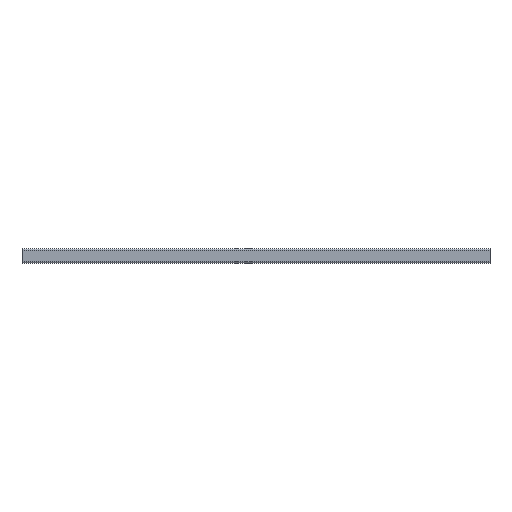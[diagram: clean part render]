
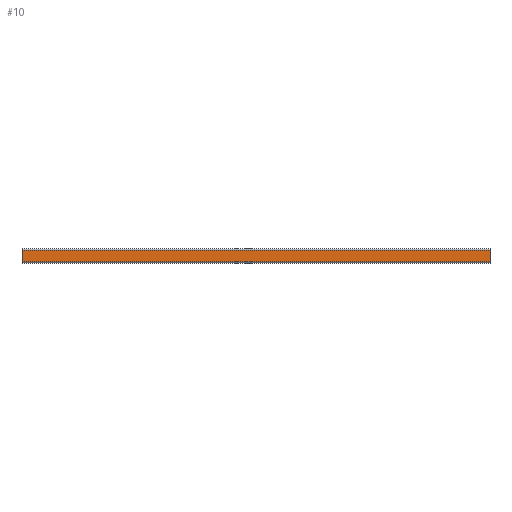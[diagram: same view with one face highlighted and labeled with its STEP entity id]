
A CAD part, top view. The second image highlights one B-rep face of the part: STEP entity #10.
In plain terms, the highlighted planar face has unit normal (0, 0, 1).
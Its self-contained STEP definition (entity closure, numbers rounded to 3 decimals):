
#10 = ADVANCED_FACE ( 'NONE', ( #1920 ), #2715, .F. ) ;
#52 = EDGE_CURVE ( 'NONE', #359, #934, #3239, .T. ) ;
#187 = CARTESIAN_POINT ( 'NONE',  ( 0., 12.5, 8. ) ) ;
#284 = CARTESIAN_POINT ( 'NONE',  ( 1000., 12.5, 8. ) ) ;
#359 = VERTEX_POINT ( 'NONE', #801 ) ;
#376 = CARTESIAN_POINT ( 'NONE',  ( 1000., 12.5, 8. ) ) ;
#390 = CARTESIAN_POINT ( 'NONE',  ( 1000., 12.5, 8. ) ) ;
#443 = DIRECTION ( 'NONE',  ( 0., -1., 0. ) ) ;
#450 = VECTOR ( 'NONE', #443, 1000. ) ;
#466 = EDGE_CURVE ( 'NONE', #934, #3274, #1212, .T. ) ;
#529 = CARTESIAN_POINT ( 'NONE',  ( 0., -12.5, 8. ) ) ;
#614 = ORIENTED_EDGE ( 'NONE', *, *, #2227, .F. ) ;
#703 = LINE ( 'NONE', #2482, #1014 ) ;
#774 = CARTESIAN_POINT ( 'NONE',  ( 1000., -12.5, 8. ) ) ;
#780 = VECTOR ( 'NONE', #2730, 1000. ) ;
#799 = LINE ( 'NONE', #284, #945 ) ;
#801 = CARTESIAN_POINT ( 'NONE',  ( 1000., 12.5, 8. ) ) ;
#830 = DIRECTION ( 'NONE',  ( 0., -1., 0. ) ) ;
#934 = VERTEX_POINT ( 'NONE', #1102 ) ;
#945 = VECTOR ( 'NONE', #830, 1000. ) ;
#965 = EDGE_CURVE ( 'NONE', #359, #1399, #799, .T. ) ;
#1014 = VECTOR ( 'NONE', #1214, 1000. ) ;
#1102 = CARTESIAN_POINT ( 'NONE',  ( 0., 12.5, 8. ) ) ;
#1212 = LINE ( 'NONE', #187, #450 ) ;
#1214 = DIRECTION ( 'NONE',  ( -1., 0., 0. ) ) ;
#1399 = VERTEX_POINT ( 'NONE', #774 ) ;
#1410 = DIRECTION ( 'NONE',  ( 0., 1., 0. ) ) ;
#1426 = DIRECTION ( 'NONE',  ( 0., 0., -1. ) ) ;
#1920 = FACE_OUTER_BOUND ( 'NONE', #2616, .T. ) ;
#2033 = ORIENTED_EDGE ( 'NONE', *, *, #52, .T. ) ;
#2227 = EDGE_CURVE ( 'NONE', #1399, #3274, #703, .T. ) ;
#2240 = AXIS2_PLACEMENT_3D ( 'NONE', #390, #1426, #1410 ) ;
#2368 = ORIENTED_EDGE ( 'NONE', *, *, #466, .T. ) ;
#2398 = ORIENTED_EDGE ( 'NONE', *, *, #965, .F. ) ;
#2482 = CARTESIAN_POINT ( 'NONE',  ( 1000., -12.5, 8. ) ) ;
#2616 = EDGE_LOOP ( 'NONE', ( #2368, #614, #2398, #2033 ) ) ;
#2715 = PLANE ( 'NONE',  #2240 ) ;
#2730 = DIRECTION ( 'NONE',  ( -1., 0., 0. ) ) ;
#3239 = LINE ( 'NONE', #376, #780 ) ;
#3274 = VERTEX_POINT ( 'NONE', #529 ) ;
